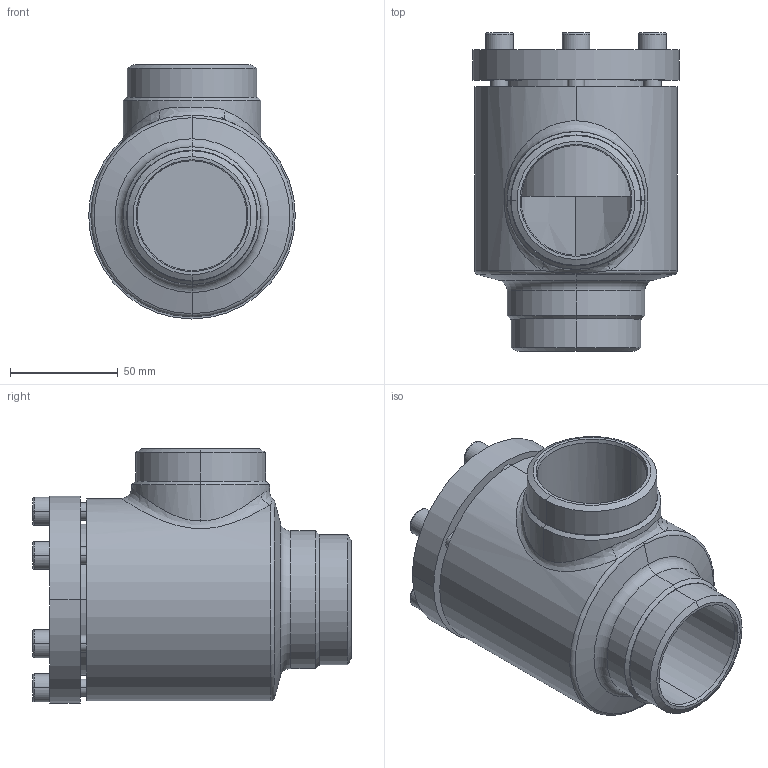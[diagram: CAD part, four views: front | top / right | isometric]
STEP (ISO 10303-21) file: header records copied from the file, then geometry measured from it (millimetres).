
FILE_DESCRIPTION (( 'STEP AP214' ), '1' );
FILE_NAME ('RV28400D15-DN050_R1_PS40.STEP', '2006-04-28T05:26:36', ( 'Herr Grams' ), ( 'AWP GmbH' ), 'SwSTEP 2.0', 'SolidWorks 2002296', '' );
FILE_SCHEMA (( 'AUTOMOTIVE_DESIGN' ));
Length unit declared in the file: millimetre
Products named in the file (5): RV28400D15-DN050_R1_PS40; RV28300E15_Deck+Schr-DN40-50_Standard; Zylinderschraube-DIN912_M 8x 25; Deckel28300E15-DN40-50_Standard; Gehäuse16400-DN050_Standard
Assembly tree (9 placements, depth 3):
  RV28400D15-DN050_R1_PS40
    Gehäuse16400-DN050_Standard
    RV28300E15_Deck+Schr-DN40-50_Standard
      Zylinderschraube-DIN912_M 8x 25  x6
      Deckel28300E15-DN40-50_Standard
Bounding box: 96 x 148 x 118 mm (x, y, z)
Volume: 582593.5 mm3; surface area: 117085.2 mm2
Topology: 8 solids, 8 shells, 179 faces, 387 edges, 243 vertices
Faces by surface type: plane 73, cylinder 60, cone 28, torus 16, bspline 2
Entity records: 12393 total; most frequent: CARTESIAN_POINT 9953, DIRECTION 493, ORIENTED_EDGE 394, AXIS2_PLACEMENT_3D 208, EDGE_CURVE 197, VERTEX_POINT 123, EDGE_LOOP 112, CIRCLE 108
